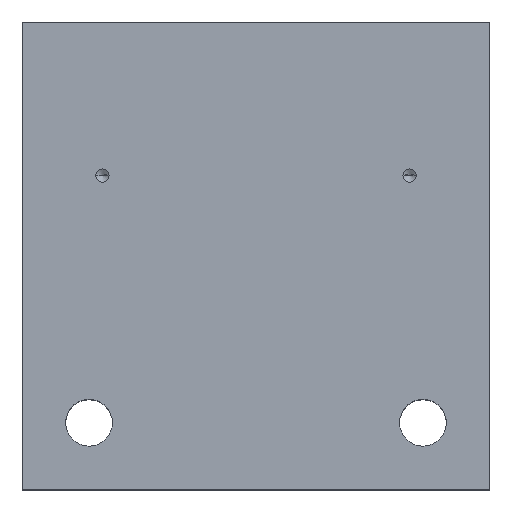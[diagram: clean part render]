
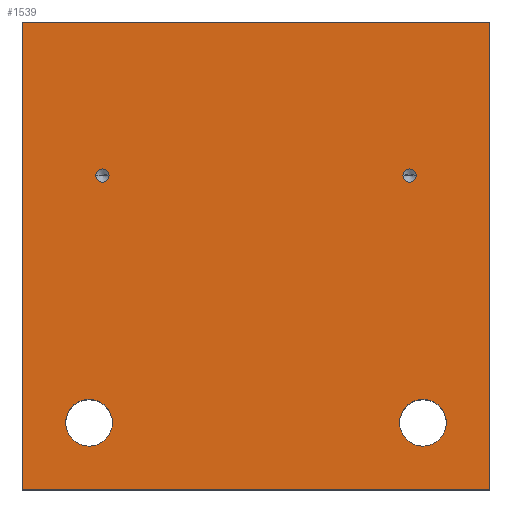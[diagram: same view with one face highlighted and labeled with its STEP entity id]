
A CAD part, top view. The second image highlights one B-rep face of the part: STEP entity #1539.
In plain terms, the highlighted planar face has unit normal (0, 0, 1).
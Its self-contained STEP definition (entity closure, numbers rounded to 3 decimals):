
#19=DIRECTION('',(0.,-1.,0.));
#20=VECTOR('',#19,70.);
#21=CARTESIAN_POINT('',(0.,0.,0.));
#22=LINE('',#21,#20);
#27=DIRECTION('',(-1.,0.,0.));
#28=VECTOR('',#27,70.);
#29=CARTESIAN_POINT('',(70.,0.,0.));
#30=LINE('',#29,#28);
#34=DIRECTION('',(0.,1.,0.));
#35=VECTOR('',#34,70.);
#36=CARTESIAN_POINT('',(70.,-70.,0.));
#37=LINE('',#36,#35);
#41=DIRECTION('',(1.,0.,0.));
#42=VECTOR('',#41,70.);
#43=CARTESIAN_POINT('',(0.,-70.,0.));
#44=LINE('',#43,#42);
#48=CARTESIAN_POINT('',(10.,-60.,0.));
#49=DIRECTION('',(0.,0.,1.));
#50=DIRECTION('',(-1.,0.,0.));
#51=AXIS2_PLACEMENT_3D('',#48,#49,#50);
#56=CARTESIAN_POINT('',(10.,-60.,0.));
#57=DIRECTION('',(0.,0.,1.));
#58=DIRECTION('',(1.,0.,0.));
#59=AXIS2_PLACEMENT_3D('',#56,#57,#58);
#64=CARTESIAN_POINT('',(60.,-60.,0.));
#65=DIRECTION('',(0.,0.,1.));
#66=DIRECTION('',(-1.,0.,0.));
#67=AXIS2_PLACEMENT_3D('',#64,#65,#66);
#72=CARTESIAN_POINT('',(60.,-60.,0.));
#73=DIRECTION('',(0.,0.,1.));
#74=DIRECTION('',(1.,0.,0.));
#75=AXIS2_PLACEMENT_3D('',#72,#73,#74);
#80=CARTESIAN_POINT('',(12.,-23.,0.));
#81=DIRECTION('',(0.,0.,1.));
#82=DIRECTION('',(-1.,0.,0.));
#83=AXIS2_PLACEMENT_3D('',#80,#81,#82);
#88=CARTESIAN_POINT('',(12.,-23.,0.));
#89=DIRECTION('',(0.,0.,1.));
#90=DIRECTION('',(1.,0.,0.));
#91=AXIS2_PLACEMENT_3D('',#88,#89,#90);
#96=CARTESIAN_POINT('',(58.,-23.,0.));
#97=DIRECTION('',(0.,0.,1.));
#98=DIRECTION('',(-1.,0.,0.));
#99=AXIS2_PLACEMENT_3D('',#96,#97,#98);
#104=CARTESIAN_POINT('',(58.,-23.,0.));
#105=DIRECTION('',(0.,0.,1.));
#106=DIRECTION('',(1.,0.,0.));
#107=AXIS2_PLACEMENT_3D('',#104,#105,#106);
#1324=CARTESIAN_POINT('',(0.,0.,0.));
#1325=CARTESIAN_POINT('',(0.,-70.,0.));
#1326=VERTEX_POINT('',#1324);
#1327=VERTEX_POINT('',#1325);
#1328=CARTESIAN_POINT('',(70.,-70.,0.));
#1329=VERTEX_POINT('',#1328);
#1330=CARTESIAN_POINT('',(70.,0.,0.));
#1331=VERTEX_POINT('',#1330);
#1445=CARTESIAN_POINT('',(6.5,-60.,0.));
#1447=VERTEX_POINT('',#1445);
#1449=CARTESIAN_POINT('',(13.5,-60.,0.));
#1451=VERTEX_POINT('',#1449);
#1453=CARTESIAN_POINT('',(56.5,-60.,0.));
#1455=VERTEX_POINT('',#1453);
#1457=CARTESIAN_POINT('',(63.5,-60.,0.));
#1459=VERTEX_POINT('',#1457);
#1486=CARTESIAN_POINT('',(11.,-23.,0.));
#1487=VERTEX_POINT('',#1486);
#1488=CARTESIAN_POINT('',(13.,-23.,0.));
#1489=VERTEX_POINT('',#1488);
#1496=CARTESIAN_POINT('',(57.,-23.,0.));
#1497=VERTEX_POINT('',#1496);
#1498=CARTESIAN_POINT('',(59.,-23.,0.));
#1499=VERTEX_POINT('',#1498);
#1500=CARTESIAN_POINT('',(0.,0.,0.));
#1501=DIRECTION('',(0.,0.,1.));
#1502=DIRECTION('',(1.,0.,0.));
#1503=AXIS2_PLACEMENT_3D('',#1500,#1501,#1502);
#1504=PLANE('',#1503);
#1506=ORIENTED_EDGE('',*,*,#1505,.F.);
#1508=ORIENTED_EDGE('',*,*,#1507,.F.);
#1510=ORIENTED_EDGE('',*,*,#1509,.F.);
#1512=ORIENTED_EDGE('',*,*,#1511,.F.);
#1513=EDGE_LOOP('',(#1506,#1508,#1510,#1512));
#1514=FACE_OUTER_BOUND('',#1513,.F.);
#1516=ORIENTED_EDGE('',*,*,#1515,.T.);
#1518=ORIENTED_EDGE('',*,*,#1517,.T.);
#1519=EDGE_LOOP('',(#1516,#1518));
#1520=FACE_BOUND('',#1519,.F.);
#1522=ORIENTED_EDGE('',*,*,#1521,.T.);
#1524=ORIENTED_EDGE('',*,*,#1523,.T.);
#1525=EDGE_LOOP('',(#1522,#1524));
#1526=FACE_BOUND('',#1525,.F.);
#1528=ORIENTED_EDGE('',*,*,#1527,.T.);
#1530=ORIENTED_EDGE('',*,*,#1529,.T.);
#1531=EDGE_LOOP('',(#1528,#1530));
#1532=FACE_BOUND('',#1531,.F.);
#1534=ORIENTED_EDGE('',*,*,#1533,.T.);
#1536=ORIENTED_EDGE('',*,*,#1535,.T.);
#1537=EDGE_LOOP('',(#1534,#1536));
#1538=FACE_BOUND('',#1537,.F.);
#52=CIRCLE('',#51,3.5);
#60=CIRCLE('',#59,3.5);
#68=CIRCLE('',#67,3.5);
#76=CIRCLE('',#75,3.5);
#84=CIRCLE('',#83,1.);
#92=CIRCLE('',#91,1.);
#100=CIRCLE('',#99,1.);
#108=CIRCLE('',#107,1.);
#1505=EDGE_CURVE('',#1326,#1327,#22,.T.);
#1507=EDGE_CURVE('',#1331,#1326,#30,.T.);
#1509=EDGE_CURVE('',#1329,#1331,#37,.T.);
#1511=EDGE_CURVE('',#1327,#1329,#44,.T.);
#1515=EDGE_CURVE('',#1447,#1451,#52,.T.);
#1517=EDGE_CURVE('',#1451,#1447,#60,.T.);
#1521=EDGE_CURVE('',#1455,#1459,#68,.T.);
#1523=EDGE_CURVE('',#1459,#1455,#76,.T.);
#1527=EDGE_CURVE('',#1487,#1489,#84,.T.);
#1529=EDGE_CURVE('',#1489,#1487,#92,.T.);
#1533=EDGE_CURVE('',#1497,#1499,#100,.T.);
#1535=EDGE_CURVE('',#1499,#1497,#108,.T.);
#1539=ADVANCED_FACE('',(#1514,#1520,#1526,#1532,#1538),#1504,.T.);
